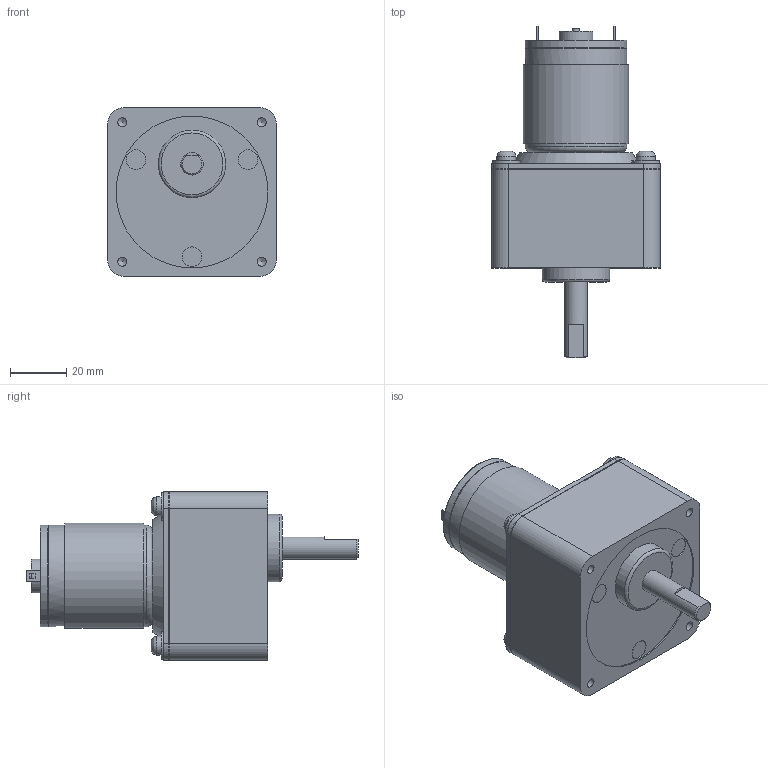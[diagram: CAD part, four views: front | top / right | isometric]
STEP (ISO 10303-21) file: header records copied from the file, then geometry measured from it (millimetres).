
FILE_DESCRIPTION((''),'2;1');
FILE_NAME('C:\Documents and Settings\SSEGAWA\デスクトップ\TP-3640B-CM-3.STP','2013-07-18T17:49:32',('SSEGAWA'),(''),'Autodesk Inventor 2010','Autodesk Inventor 2010','');
FILE_SCHEMA(('CONFIG_CONTROL_DESIGN'));
Length unit declared in the file: millimetre
Products named in the file (1): tp_3640bce_cm_3_Shrinkwrap_1
Bounding box: 60 x 118 x 60 mm (x, y, z)
Volume: 184084.4 mm3; surface area: 23330.9 mm2
Topology: 1 solids, 3 shells, 131 faces, 290 edges, 191 vertices
Faces by surface type: plane 70, cylinder 34, bspline 20, torus 4, cone 3
Full cylindrical faces by diameter (mm): 2.5 x1, 4 x1, 4.5 x1, 6.8 x4, 7 x3, 8 x1, 9.8 x4, 12 x1, 24 x1, 35.6 x1, 36 x2, 54 x1
Entity records: 3732 total; most frequent: CARTESIAN_POINT 931, DIRECTION 546, ORIENTED_EDGE 458, EDGE_CURVE 229, AXIS2_PLACEMENT_3D 207, EDGE_LOOP 205, VERTEX_POINT 174, VECTOR 132
